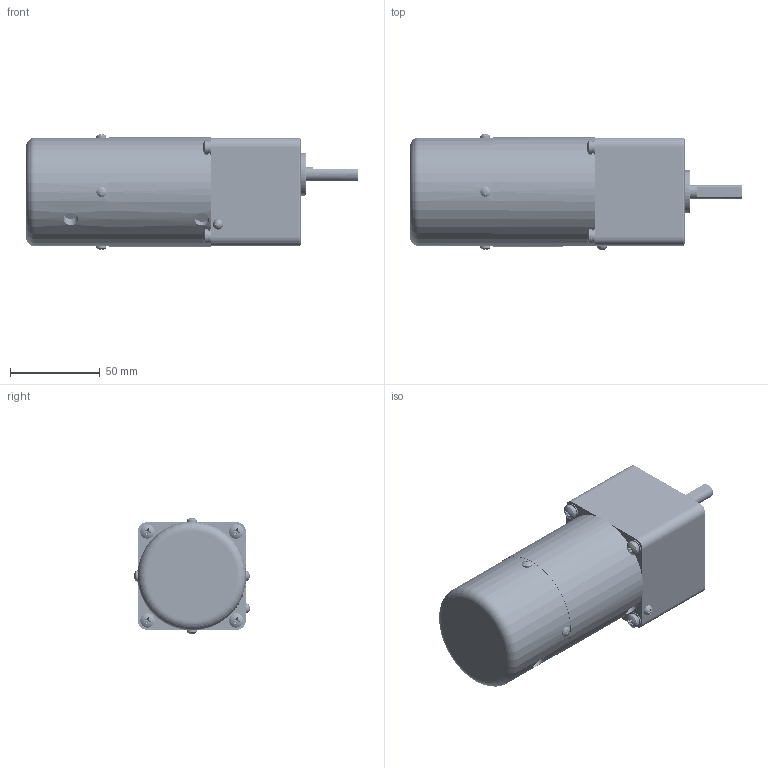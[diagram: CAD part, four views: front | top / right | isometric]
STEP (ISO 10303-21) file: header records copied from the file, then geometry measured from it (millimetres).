
FILE_DESCRIPTION(/* description */ (''),/* implementation_level */ '2;1');
FILE_NAME(/* name */ '60高箱L-6W刹车.stp',/* time_stamp */ '2022-10-31T08:30:25+08:00',/* author */ (''),/* organization */ (''),/* preprocessor_version */ 'ST-DEVELOPER v16.7',/* originating_system */ 'SIEMENS PLM Software NX 1899',/* authorisation */ '');
FILE_SCHEMA (('AP203_CONFIGURATION_CONTROLLED_3D_DESIGN_OF_MECHANICAL_PARTS_AND_ASSEMBLIES_MIM_LF { 1 0 10303 403 2 1 2}'));
Products named in the file (1): yf186188FEB6lc1v
Bounding box: 185 x 64.82 x 64.66 mm (x, y, z)
Volume: 464169.2 mm3; surface area: 53042.3 mm2
Topology: 14 solids, 15 shells, 362 faces, 924 edges, 608 vertices
Faces by surface type: plane 173, bspline 92, cylinder 75, torus 15, sphere 6, cone 1
Full cylindrical faces by diameter (mm): 3 x1, 3.838 x4, 4 x4, 4.3 x4, 5.6 x4, 6 x5, 8 x10, 8.2 x1, 24 x1, 52.6 x1, 57 x2, 60.5 x1, 61 x1
Entity records: 79604 total; most frequent: CARTESIAN_POINT 71580, ORIENTED_EDGE 1658, DIRECTION 1280, EDGE_CURVE 829, VERTEX_POINT 570, AXIS2_PLACEMENT_3D 502, EDGE_LOOP 467, ADVANCED_FACE 362
